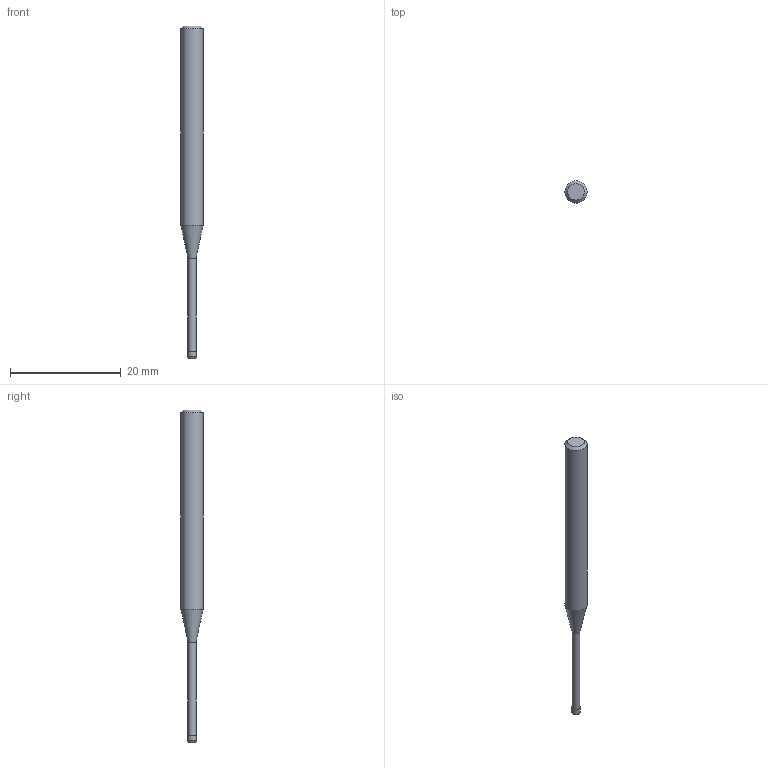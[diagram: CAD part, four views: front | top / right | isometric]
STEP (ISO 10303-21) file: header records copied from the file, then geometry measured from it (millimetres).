
FILE_DESCRIPTION((''),'2;1');
FILE_NAME('C:\Users\nsx150\AppData\Local\Temp\Mastercam 2021\17T8Q8S9EB\TEMP.step','2021-04-21T14:35:56',(''),(''),'STEP Write','Mastercam 2021 ... CNC Software, Inc.','');
FILE_SCHEMA(('AUTOMOTIVE_DESIGN'));
Length unit declared in the file: millimetre
Products named in the file (1): None
Bounding box: 4 x 4 x 60 mm (x, y, z)
Volume: 518.3 mm3; surface area: 600.4 mm2
Topology: 2 solids, 2 shells, 10 faces, 14 edges, 8 vertices
Faces by surface type: plane 4, cylinder 3, cone 2, torus 1
Full cylindrical faces by diameter (mm): 1.45 x1, 1.5 x1, 4 x1
Entity records: 232 total; most frequent: DIRECTION 40, CARTESIAN_POINT 28, AXIS2_PLACEMENT_3D 20, ORIENTED_EDGE 16, EDGE_LOOP 16, STYLED_ITEM 13, ADVANCED_FACE 10, FACE_BOUND 10
